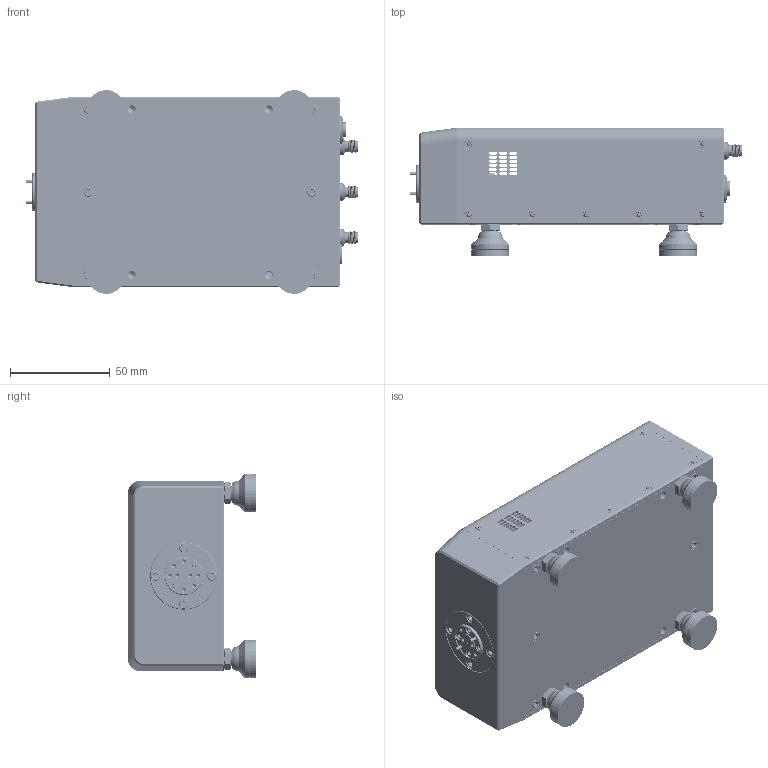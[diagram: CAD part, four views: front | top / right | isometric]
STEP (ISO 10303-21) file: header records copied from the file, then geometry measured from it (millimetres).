
FILE_DESCRIPTION (( 'STEP AP214' ), '1' );
FILE_NAME ('TO-T03-A.STEP', '2024-11-02T00:05:46', ( '' ), ( '' ), 'SwSTEP 2.0', 'SolidWorks 2021', '' );
FILE_SCHEMA (( 'AUTOMOTIVE_DESIGN' ));
Length unit declared in the file: inch
Products named in the file (1): TO-T03-A
Bounding box: 166.06 x 64.14 x 101.85 mm (x, y, z)
Volume: 216902.7 mm3; surface area: 140940.6 mm2
Topology: 74 solids, 74 shells, 4199 faces, 11162 edges, 7126 vertices
Faces by surface type: cylinder 2033, plane 995, cone 763, bspline 363, sphere 37, torus 8
Entity records: 304166 total; most frequent: CARTESIAN_POINT 155904, ORIENTED_EDGE 21970, DIRECTION 16581, EDGE_CURVE 10985, VERTEX_POINT 7096, AXIS2_PLACEMENT_3D 6300, EDGE_LOOP 4579, LENGTH_MEASURE_WITH_UNIT 4274
